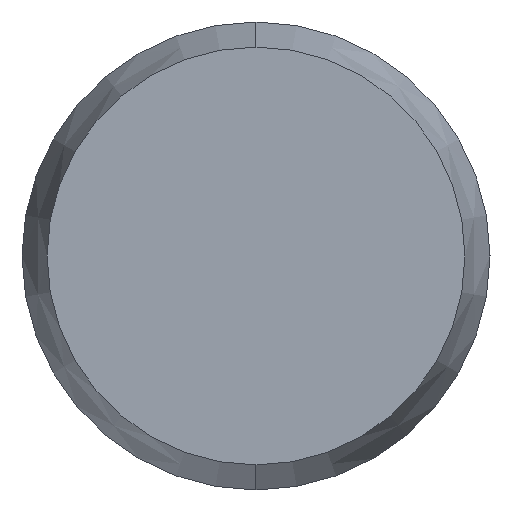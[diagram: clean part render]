
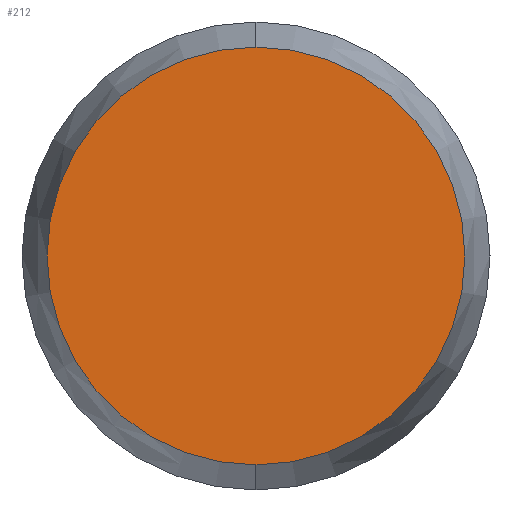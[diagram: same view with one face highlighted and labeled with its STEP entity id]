
A CAD part, left-side view. The second image highlights one B-rep face of the part: STEP entity #212.
In plain terms, the highlighted planar face has unit normal (-1, 0, 0).
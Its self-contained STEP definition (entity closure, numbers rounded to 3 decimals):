
#79 = FACE_OUTER_BOUND ( 'NONE', #208, .T. ) ;
#80 = PLANE ( 'NONE',  #97 ) ;
#94 = DIRECTION ( 'NONE',  ( 0., 0., -1. ) ) ;
#95 = DIRECTION ( 'NONE',  ( 1., 0., 0. ) ) ;
#96 = CARTESIAN_POINT ( 'NONE',  ( -12., 0., 0. ) ) ;
#97 = AXIS2_PLACEMENT_3D ( 'NONE', #96, #95, #94 ) ;
#117 = CIRCLE ( 'NONE', #124, 0.67 ) ;
#123 = CARTESIAN_POINT ( 'NONE',  ( -12., 0., 0. ) ) ;
#124 = AXIS2_PLACEMENT_3D ( 'NONE', #123, #130, #129 ) ;
#129 = DIRECTION ( 'NONE',  ( 0., 0., -1. ) ) ;
#130 = DIRECTION ( 'NONE',  ( 1., 0., 0. ) ) ;
#183 = DIRECTION ( 'NONE',  ( 0., 0., -1. ) ) ;
#184 = DIRECTION ( 'NONE',  ( 1., 0., 0. ) ) ;
#185 = AXIS2_PLACEMENT_3D ( 'NONE', #190, #184, #183 ) ;
#186 = CIRCLE ( 'NONE', #185, 0.67 ) ;
#188 = CARTESIAN_POINT ( 'NONE',  ( -12., 0., -0.67 ) ) ;
#189 = CARTESIAN_POINT ( 'NONE',  ( -12., 0., 0.67 ) ) ;
#190 = CARTESIAN_POINT ( 'NONE',  ( -12., 0., 0. ) ) ;
#208 = EDGE_LOOP ( 'NONE', ( #216, #248 ) ) ;
#212 = ADVANCED_FACE ( 'NONE', ( #79 ), #80, .F. ) ;
#216 = ORIENTED_EDGE ( 'NONE', *, *, #257, .F. ) ;
#233 = EDGE_CURVE ( 'NONE', #259, #258, #117, .T. ) ;
#248 = ORIENTED_EDGE ( 'NONE', *, *, #233, .F. ) ;
#257 = EDGE_CURVE ( 'NONE', #258, #259, #186, .T. ) ;
#258 = VERTEX_POINT ( 'NONE', #189 ) ;
#259 = VERTEX_POINT ( 'NONE', #188 ) ;
